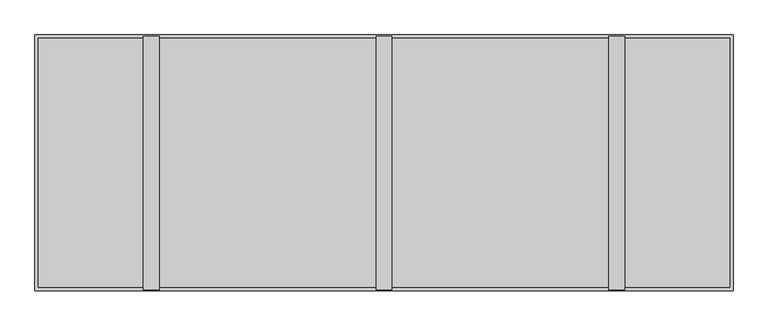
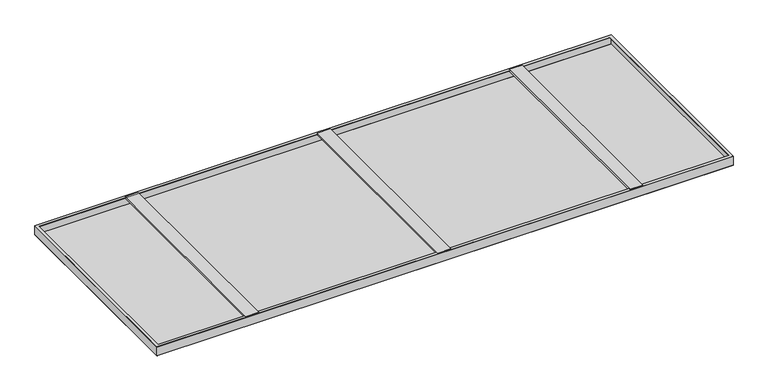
"""IFC4 building model written with IfcOpenShell, lengths in millimetres: proxy geometry, durlum_dur_SOLO_RHOMBOS_TYPE1 : durlum_dur_SOLO_RHOMBOS_TYPE1."""

from ifc_helpers import new_model, si_unit, frame, origin, origin_with_axes, place, context, project, spatial, polyline, outline, extrude, source, transform, mapped, element, save


def generic_models_52426d55(model_context):
    return source(origin(), model_context, "Body", "SweptSolid", [
        extrude(outline(polyline([(50.0, -33.8181105), (41.2547795, -33.8181105), (41.2547795, -31.2987062), (47.2031398, -31.2987062), (47.2031398, 31.2987062), (41.2547795, 31.2987062), (41.2547795, 33.8181105), (50.0, 33.8181105), (50.0, -33.8181105)])), frame((0.0, -545.0, 0.0), z_axis=(0.0, 1.0, 0.0), x_axis=(0.0, 0.0, 1.0)), (0.0, 0.0, 1.0), 1090.0),
        extrude(outline(polyline([(50.0, 966.1818895), (41.2547795, 966.1818895), (41.2547795, 968.7012938), (47.2031398, 968.7012938), (47.2031398, 1031.2987062), (41.2547795, 1031.2987062), (41.2547795, 1033.8181105), (50.0, 1033.8181105), (50.0, 966.1818895)])), frame((0.0, -545.0, 0.0), z_axis=(0.0, 1.0, 0.0), x_axis=(0.0, 0.0, 1.0)), (0.0, 0.0, 1.0), 1090.0),
        extrude(outline(polyline([(50.0, -1033.8181105), (41.2547795, -1033.8181105), (41.2547795, -1031.2987062), (47.2031398, -1031.2987062), (47.2031398, -968.7012938), (41.2547795, -968.7012938), (41.2547795, -966.1818895), (50.0, -966.1818895), (50.0, -1033.8181105)])), frame((0.0, -545.0, 0.0), z_axis=(0.0, 1.0, 0.0), x_axis=(0.0, 0.0, 1.0)), (0.0, 0.0, 1.0), 1090.0),
        extrude(outline(polyline([(1500.0, 550.0), (1500.0, -550.0), (-1500.0, -550.0), (-1500.0, 550.0), (1500.0, 550.0)]), holes=[polyline([(-1485.0, 535.0), (-1485.0, -535.0), (1485.0, -535.0), (1485.0, 535.0), (-1485.0, 535.0)])]), frame((0.0, 0.0, 49.4), z_axis=(0.0, 0.0, 1.0), x_axis=(1.0, 0.0, 0.0)), (0.0, 0.0, 1.0), 0.6),
        extrude(outline(polyline([(1500.0, 550.0), (1500.0, -550.0), (-1500.0, -550.0), (-1500.0, 550.0), (1500.0, 550.0)]), holes=[polyline([(1499.4, 549.4), (-1499.4, 549.4), (-1499.4, -549.4), (1499.4, -549.4), (1499.4, 549.4)])]), frame((0.0, 0.0, 0.6), z_axis=(0.0, 0.0, 1.0), x_axis=(1.0, 0.0, 0.0)), (0.0, 0.0, 1.0), 49.4),
        extrude(outline(polyline([(1500.0, 550.0), (1500.0, -550.0), (-1500.0, -550.0), (-1500.0, 550.0), (1500.0, 550.0)]), holes=[polyline([(1499.4, 549.4), (-1499.4, 549.4), (-1499.4, -549.4), (1499.4, -549.4), (1499.4, 549.4)])]), origin_with_axes(), (0.0, 0.0, 1.0), 0.6),
        extrude(outline(polyline([(1499.4, 549.4), (1499.4, -549.4), (-1499.4, -549.4), (-1499.4, 549.4), (1499.4, 549.4)])), origin_with_axes(), (0.0, 0.0, 1.0), 0.6),
    ])


if __name__ == "__main__":
    model = new_model("IFC4")
    model_context = context("Model", 3, world=origin())
    ifc_project = project(units=[si_unit("LENGTHUNIT", "METRE", prefix="MILLI")], contexts=[model_context])
    site = spatial("IfcSite", under=ifc_project)
    building = spatial("IfcBuilding", under=site)
    placement = place(None, origin())
    generic_models_shape = generic_models_52426d55(model_context)
    element("IfcBuildingElementProxy", 1, Name="durlum_dur_SOLO_RHOMBOS_TYPE1 : durlum_dur_SOLO_RHOMBOS_TYPE1", ObjectType="durlum_dur_SOLO_RHOMBOS_TYPE1 : durlum_dur_SOLO_RHOMBOS_TYPE1", at=placement, inside=building, context=model_context, shape_type="MappedRepresentation", body=[
        mapped(generic_models_shape, transform((0.0, 0.0, 0.0), x_axis=(1.0, 0.0, 0.0), y_axis=(0.0, 1.0, 0.0), z_axis=(0.0, 0.0, 1.0))),
    ])
    save(model, "model.ifc")
